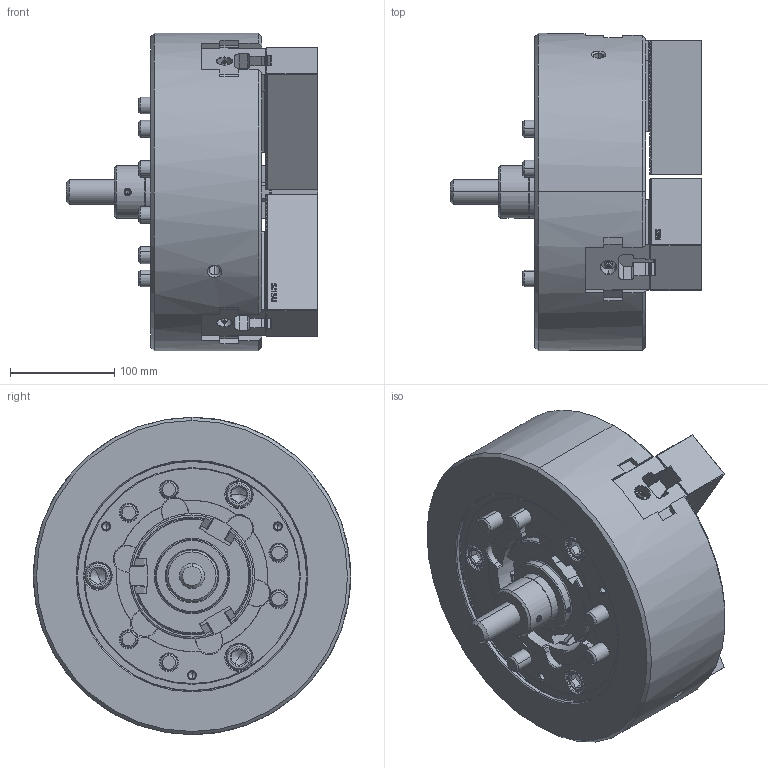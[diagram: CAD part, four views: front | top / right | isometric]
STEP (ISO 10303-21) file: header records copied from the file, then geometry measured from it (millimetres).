
FILE_DESCRIPTION (( 'STEP AP214' ), '1' );
FILE_NAME ('DT1_NL12_OUTSIDE_VIEW_HOL.STEP', '2026-03-23T05:42:58', ( '' ), ( '' ), 'SwSTEP 2.0', 'SolidWorks 2022', '' );
FILE_SCHEMA (( 'AUTOMOTIVE_DESIGN' ));
Length unit declared in the file: millimetre
Products named in the file (11): DT1_NL12_SOFTJAW^DT1_NL12; Copy of 61P413921^DT1_NL12; DT1_NL12_M14x45^DT1_NL12; DT1_NL12_M5x12^DT1_NL12; DT1_NL12_DN^DT1_NL12; DT1_NL12_COVER^DT1_NL12; DT1_NL12_M16x100^DT1_NL12; DT1_NL12_DRAWSCREW^DT1_NL12; DT1_NL12_OUTSIDE_VIEW_HOL; DT1_NL12_TNUT^DT1_NL12; DT1_NL12_BASE^DT1_NL12
Assembly tree (26 placements, depth 2):
  DT1_NL12_OUTSIDE_VIEW_HOL
    DT1_NL12_SOFTJAW^DT1_NL12  x3
    DT1_NL12_TNUT^DT1_NL12  x3
    DT1_NL12_COVER^DT1_NL12
    DT1_NL12_DRAWSCREW^DT1_NL12
    Copy of 61P413921^DT1_NL12
    DT1_NL12_M16x100^DT1_NL12  x6
    DT1_NL12_M14x45^DT1_NL12  x6
    DT1_NL12_M5x12^DT1_NL12  x3
    DT1_NL12_DN^DT1_NL12
    DT1_NL12_BASE^DT1_NL12
Bounding box: 241.28 x 304 x 304 mm (x, y, z)
Volume: 8151363 mm3; surface area: 675711.2 mm2
Topology: 26 solids, 32 shells, 5212 faces, 14782 edges, 9682 vertices
Faces by surface type: plane 3764, cylinder 713, cone 436, bspline 225, torus 68, sphere 6
Entity records: 123152 total; most frequent: CARTESIAN_POINT 32688, ORIENTED_EDGE 20272, DIRECTION 16521, EDGE_CURVE 10136, LINE 7555, VECTOR 7555, VERTEX_POINT 6658, AXIS2_PLACEMENT_3D 4483
